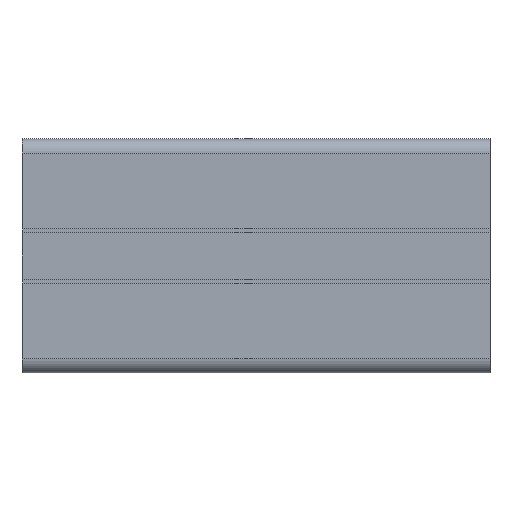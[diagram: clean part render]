
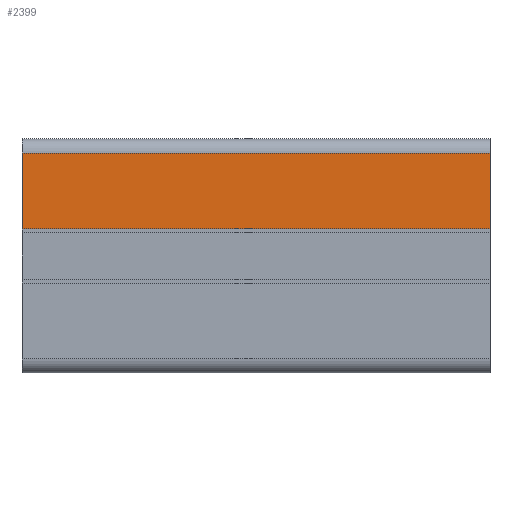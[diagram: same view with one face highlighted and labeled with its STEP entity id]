
A CAD part, left-side view. The second image highlights one B-rep face of the part: STEP entity #2399.
In plain terms, the highlighted planar face has unit normal (-1, 0, 0).
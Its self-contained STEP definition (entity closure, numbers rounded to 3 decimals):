
#55 = LINE ( 'NONE', #85, #5084 ) ;
#85 = CARTESIAN_POINT ( 'NONE',  ( -25., 50., 5.8 ) ) ;
#187 = EDGE_CURVE ( 'NONE', #1634, #5612, #5405, .T. ) ;
#232 = CARTESIAN_POINT ( 'NONE',  ( -25., 50., 5.8 ) ) ;
#322 = CARTESIAN_POINT ( 'NONE',  ( -25., 50., 5.8 ) ) ;
#449 = DIRECTION ( 'NONE',  ( 0., -1., 0. ) ) ;
#633 = VERTEX_POINT ( 'NONE', #232 ) ;
#700 = ORIENTED_EDGE ( 'NONE', *, *, #3963, .T. ) ;
#945 = LINE ( 'NONE', #1034, #5331 ) ;
#1034 = CARTESIAN_POINT ( 'NONE',  ( -25., 50., 5.8 ) ) ;
#1264 = DIRECTION ( 'NONE',  ( 0., 0., 1. ) ) ;
#1387 = CARTESIAN_POINT ( 'NONE',  ( -25., -50., 22. ) ) ;
#1508 = DIRECTION ( 'NONE',  ( 0., 0., 1. ) ) ;
#1634 = VERTEX_POINT ( 'NONE', #1943 ) ;
#1880 = ORIENTED_EDGE ( 'NONE', *, *, #4697, .T. ) ;
#1943 = CARTESIAN_POINT ( 'NONE',  ( -25., 50., 22. ) ) ;
#1947 = CARTESIAN_POINT ( 'NONE',  ( -25., -50., 5.8 ) ) ;
#2241 = VECTOR ( 'NONE', #1264, 1000. ) ;
#2318 = EDGE_LOOP ( 'NONE', ( #700, #5603, #3217, #1880 ) ) ;
#2399 = ADVANCED_FACE ( 'NONE', ( #3881 ), #2561, .F. ) ;
#2561 = PLANE ( 'NONE',  #5102 ) ;
#3217 = ORIENTED_EDGE ( 'NONE', *, *, #3507, .F. ) ;
#3244 = DIRECTION ( 'NONE',  ( 0., -1., 0. ) ) ;
#3397 = VECTOR ( 'NONE', #449, 1000. ) ;
#3507 = EDGE_CURVE ( 'NONE', #633, #1634, #55, .T. ) ;
#3881 = FACE_OUTER_BOUND ( 'NONE', #2318, .T. ) ;
#3963 = EDGE_CURVE ( 'NONE', #5721, #5612, #4723, .T. ) ;
#4403 = DIRECTION ( 'NONE',  ( 0., 0., -1. ) ) ;
#4590 = CARTESIAN_POINT ( 'NONE',  ( -25., 50., 22. ) ) ;
#4697 = EDGE_CURVE ( 'NONE', #633, #5721, #945, .T. ) ;
#4723 = LINE ( 'NONE', #4810, #2241 ) ;
#4810 = CARTESIAN_POINT ( 'NONE',  ( -25., -50., 5.8 ) ) ;
#5084 = VECTOR ( 'NONE', #1508, 1000. ) ;
#5102 = AXIS2_PLACEMENT_3D ( 'NONE', #322, #5251, #4403 ) ;
#5251 = DIRECTION ( 'NONE',  ( 1., 0., 0. ) ) ;
#5331 = VECTOR ( 'NONE', #3244, 1000. ) ;
#5405 = LINE ( 'NONE', #4590, #3397 ) ;
#5603 = ORIENTED_EDGE ( 'NONE', *, *, #187, .F. ) ;
#5612 = VERTEX_POINT ( 'NONE', #1387 ) ;
#5721 = VERTEX_POINT ( 'NONE', #1947 ) ;
